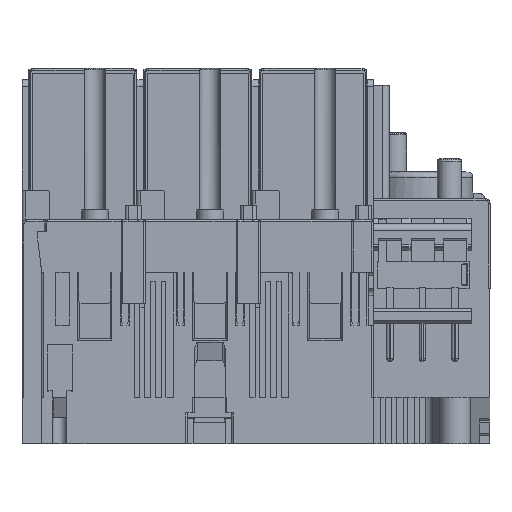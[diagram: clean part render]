
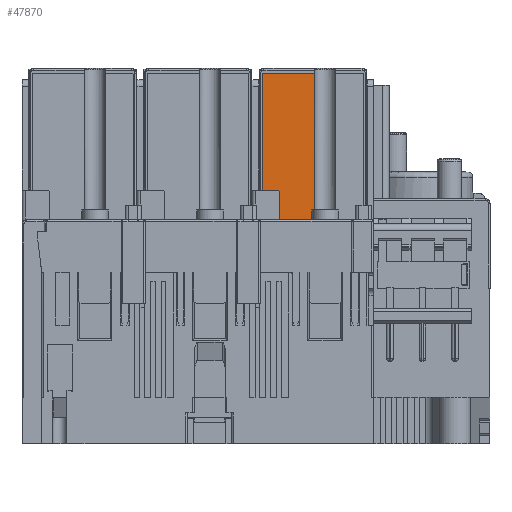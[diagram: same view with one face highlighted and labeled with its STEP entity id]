
A CAD part, front view. The second image highlights one B-rep face of the part: STEP entity #47870.
In plain terms, the highlighted planar face has unit normal (0, -1, 0).
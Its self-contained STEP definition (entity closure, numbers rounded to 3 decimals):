
#5705=DIRECTION('',(-1.,0.,0.));
#5706=VECTOR('',#5705,16.077);
#5707=CARTESIAN_POINT('',(-52.283,-66.343,20.8));
#5708=LINE('',#5707,#5706);
#5901=DIRECTION('',(0.,0.,-1.));
#5902=VECTOR('',#5901,3.);
#5903=CARTESIAN_POINT('',(-52.283,-66.343,23.8));
#5904=LINE('',#5903,#5902);
#5909=DIRECTION('',(-1.,0.,0.));
#5910=VECTOR('',#5909,0.858);
#5911=CARTESIAN_POINT('',(-67.502,-66.343,66.55));
#5912=LINE('',#5911,#5910);
#5913=CARTESIAN_POINT('',(-66.86,-66.343,65.3));
#5914=DIRECTION('',(0.,1.,0.));
#5915=DIRECTION('',(-1.,0.,0.));
#5916=AXIS2_PLACEMENT_3D('',#5913,#5914,#5915);
#5918=DIRECTION('',(0.,0.,-1.));
#5919=VECTOR('',#5918,38.609);
#5920=CARTESIAN_POINT('',(-67.36,-66.343,64.8));
#5921=LINE('',#5920,#5919);
#5922=CARTESIAN_POINT('',(-66.86,-66.343,64.8));
#5923=DIRECTION('',(0.,-1.,0.));
#5924=DIRECTION('',(0.,0.,1.));
#5925=AXIS2_PLACEMENT_3D('',#5922,#5923,#5924);
#5927=DIRECTION('',(-1.,0.,0.));
#5928=VECTOR('',#5927,15.383);
#5929=CARTESIAN_POINT('',(-51.477,-66.343,65.3));
#5930=LINE('',#5929,#5928);
#5931=DIRECTION('',(1.,0.,0.));
#5932=VECTOR('',#5931,0.806);
#5933=CARTESIAN_POINT('',(-52.283,-66.343,23.8));
#5934=LINE('',#5933,#5932);
#6003=DIRECTION('',(0.,0.,1.));
#6004=VECTOR('',#6003,45.75);
#6005=CARTESIAN_POINT('',(-68.36,-66.343,20.8));
#6006=LINE('',#6005,#6004);
#23265=DIRECTION('',(1.,0.,0.));
#23266=VECTOR('',#23265,0.905);
#23267=CARTESIAN_POINT('',(-68.265,-66.343,
26.191));
#23268=LINE('',#23267,#23266);
#23282=DIRECTION('',(0.,0.,-1.));
#23283=VECTOR('',#23282,39.109);
#23284=CARTESIAN_POINT('',(-68.265,-66.343,65.3));
#23285=LINE('',#23284,#23283);
#23312=DIRECTION('',(0.,0.,-1.));
#23313=VECTOR('',#23312,41.5);
#23314=CARTESIAN_POINT('',(-51.477,-66.343,65.3));
#23315=LINE('',#23314,#23313);
#31783=CARTESIAN_POINT('',(-52.283,-66.343,20.8));
#31785=VERTEX_POINT('',#31783);
#31788=CARTESIAN_POINT('',(-52.283,-66.343,23.8));
#31789=VERTEX_POINT('',#31788);
#31860=CARTESIAN_POINT('',(-51.477,-66.343,23.8));
#31862=VERTEX_POINT('',#31860);
#31890=CARTESIAN_POINT('',(-68.36,-66.343,20.8));
#31891=VERTEX_POINT('',#31890);
#39428=CARTESIAN_POINT('',(-68.36,-66.343,66.55));
#39429=VERTEX_POINT('',#39428);
#39451=CARTESIAN_POINT('',(-51.477,-66.343,65.3));
#39452=VERTEX_POINT('',#39451);
#39453=CARTESIAN_POINT('',(-66.86,-66.343,65.3));
#39454=VERTEX_POINT('',#39453);
#39455=CARTESIAN_POINT('',(-67.36,-66.343,64.8));
#39456=VERTEX_POINT('',#39455);
#39457=CARTESIAN_POINT('',(-67.36,-66.343,26.191));
#39458=VERTEX_POINT('',#39457);
#39459=CARTESIAN_POINT('',(-68.265,-66.343,
26.191));
#39460=VERTEX_POINT('',#39459);
#39461=CARTESIAN_POINT('',(-68.265,-66.343,65.3));
#39462=VERTEX_POINT('',#39461);
#39463=CARTESIAN_POINT('',(-67.502,-66.343,66.55));
#39464=VERTEX_POINT('',#39463);
#47841=CARTESIAN_POINT('',(-360.28,-66.343,20.8));
#47842=DIRECTION('',(0.,1.,0.));
#47843=DIRECTION('',(0.,0.,-1.));
#47844=AXIS2_PLACEMENT_3D('',#47841,#47842,#47843);
#47845=PLANE('',#47844);
#47846=ORIENTED_EDGE('',*,*,#47833,.T.);
#47847=ORIENTED_EDGE('',*,*,#47577,.T.);
#47849=ORIENTED_EDGE('',*,*,#47848,.T.);
#47851=ORIENTED_EDGE('',*,*,#47850,.F.);
#47853=ORIENTED_EDGE('',*,*,#47852,.F.);
#47855=ORIENTED_EDGE('',*,*,#47854,.T.);
#47857=ORIENTED_EDGE('',*,*,#47856,.T.);
#47859=ORIENTED_EDGE('',*,*,#47858,.F.);
#47861=ORIENTED_EDGE('',*,*,#47860,.F.);
#47863=ORIENTED_EDGE('',*,*,#47862,.F.);
#47865=ORIENTED_EDGE('',*,*,#47864,.T.);
#47867=ORIENTED_EDGE('',*,*,#47866,.F.);
#47868=EDGE_LOOP('',(#47846,#47847,#47849,#47851,#47853,#47855,#47857,#47859,
#47861,#47863,#47865,#47867));
#47869=FACE_OUTER_BOUND('',#47868,.F.);
#47870=ADVANCED_FACE('',(#47869),#47845,.F.);
#5917=CIRCLE('',#5916,1.405);
#5926=CIRCLE('',#5925,0.5);
#47577=EDGE_CURVE('',#31785,#31891,#5708,.T.);
#47833=EDGE_CURVE('',#31789,#31785,#5904,.T.);
#47848=EDGE_CURVE('',#31891,#39429,#6006,.T.);
#47850=EDGE_CURVE('',#39464,#39429,#5912,.T.);
#47852=EDGE_CURVE('',#39462,#39464,#5917,.T.);
#47854=EDGE_CURVE('',#39462,#39460,#23285,.T.);
#47856=EDGE_CURVE('',#39460,#39458,#23268,.T.);
#47858=EDGE_CURVE('',#39456,#39458,#5921,.T.);
#47860=EDGE_CURVE('',#39454,#39456,#5926,.T.);
#47862=EDGE_CURVE('',#39452,#39454,#5930,.T.);
#47864=EDGE_CURVE('',#39452,#31862,#23315,.T.);
#47866=EDGE_CURVE('',#31789,#31862,#5934,.T.);
